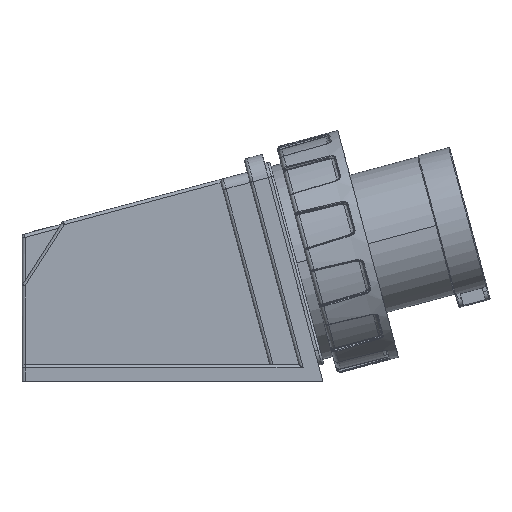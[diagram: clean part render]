
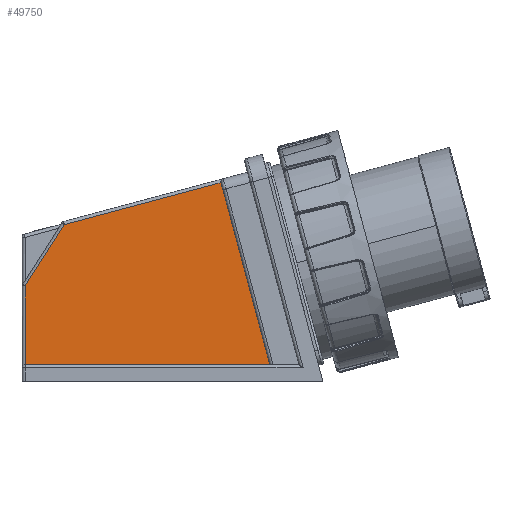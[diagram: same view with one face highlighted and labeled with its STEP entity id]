
A CAD part, left-side view. The second image highlights one B-rep face of the part: STEP entity #49750.
In plain terms, the highlighted planar face has unit normal (-1, 0, 0).
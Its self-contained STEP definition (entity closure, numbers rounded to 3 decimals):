
#48204 = VERTEX_POINT('',#48205);
#48205 = CARTESIAN_POINT('',(-42.5,70.5,45.716));
#48221 = VERTEX_POINT('',#48222);
#48222 = CARTESIAN_POINT('',(-42.5,70.5,8.));
#48229 = EDGE_CURVE('',#48204,#48221,#48230,.T.);
#48230 = LINE('',#48231,#48232);
#48231 = CARTESIAN_POINT('',(-42.5,70.5,26.858));
#48232 = VECTOR('',#48233,1.);
#48233 = DIRECTION('',(0.,0.,-1.));
#49724 = VERTEX_POINT('',#49725);
#49725 = CARTESIAN_POINT('',(-42.5,-23.22,
    95.116));
#49731 = EDGE_CURVE('',#49732,#49724,#49734,.T.);
#49732 = VERTEX_POINT('',#49733);
#49733 = CARTESIAN_POINT('',(-42.5,-46.563,8.));
#49734 = LINE('',#49735,#49736);
#49735 = CARTESIAN_POINT('',(-42.5,-34.891,51.558));
#49736 = VECTOR('',#49737,1.);
#49737 = DIRECTION('',(0.,0.259,0.966));
#49750 = ADVANCED_FACE('',(#49751),#49775,.F.);
#49751 = FACE_BOUND('',#49752,.T.);
#49752 = EDGE_LOOP('',(#49753,#49754,#49762,#49768,#49769));
#49753 = ORIENTED_EDGE('',*,*,#49731,.T.);
#49754 = ORIENTED_EDGE('',*,*,#49755,.T.);
#49755 = EDGE_CURVE('',#49724,#49756,#49758,.T.);
#49756 = VERTEX_POINT('',#49757);
#49757 = CARTESIAN_POINT('',(-42.5,51.732,75.033));
#49758 = LINE('',#49759,#49760);
#49759 = CARTESIAN_POINT('',(-42.5,-263.907,159.608));
#49760 = VECTOR('',#49761,1.);
#49761 = DIRECTION('',(0.,0.966,-0.259));
#49762 = ORIENTED_EDGE('',*,*,#49763,.T.);
#49763 = EDGE_CURVE('',#49756,#48204,#49764,.T.);
#49764 = LINE('',#49765,#49766);
#49765 = CARTESIAN_POINT('',(-42.5,-73.163,270.124));
#49766 = VECTOR('',#49767,1.);
#49767 = DIRECTION('',(0.,0.539,-0.842));
#49768 = ORIENTED_EDGE('',*,*,#48229,.T.);
#49769 = ORIENTED_EDGE('',*,*,#49770,.F.);
#49770 = EDGE_CURVE('',#49732,#48221,#49771,.T.);
#49771 = LINE('',#49772,#49773);
#49772 = CARTESIAN_POINT('',(-42.5,11.969,8.));
#49773 = VECTOR('',#49774,1.);
#49774 = DIRECTION('',(0.,1.,0.));
#49775 = PLANE('',#49776);
#49776 = AXIS2_PLACEMENT_3D('',#49777,#49778,#49779);
#49777 = CARTESIAN_POINT('',(-42.5,0.,0.));
#49778 = DIRECTION('',(1.,0.,0.));
#49779 = DIRECTION('',(-0.,1.,0.));
